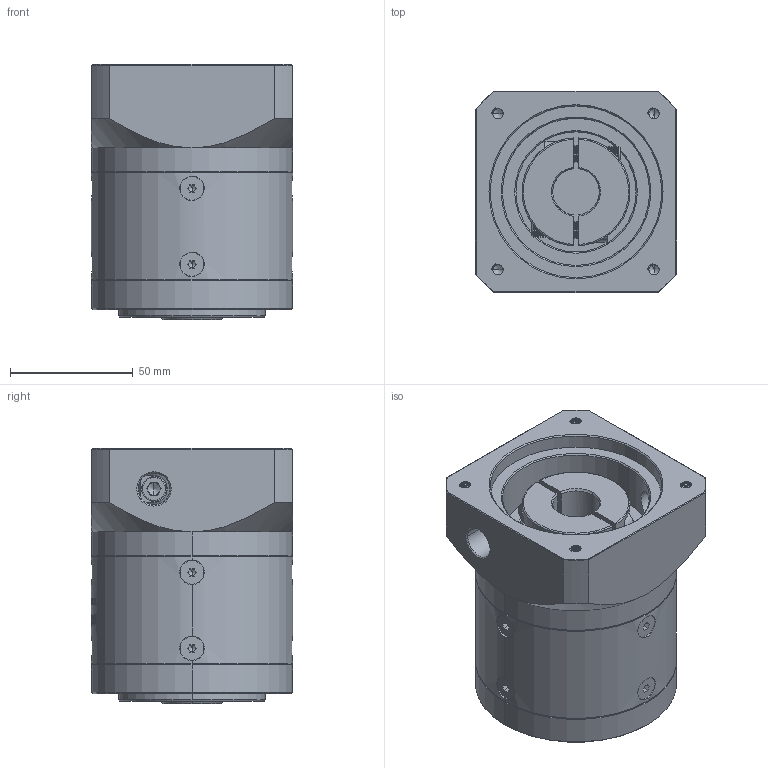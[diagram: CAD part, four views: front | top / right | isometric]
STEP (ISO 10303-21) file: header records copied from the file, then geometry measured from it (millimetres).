
FILE_DESCRIPTION (( 'STEP AP214' ), '1' );
FILE_NAME ('ZE80-K15-L1-19-70-90-M5.step', '2022-05-08T05:56:51', ( '' ), ( 'Microsoft' ), 'SwSTEP 2.0', 'SolidWorks 2016', '' );
FILE_SCHEMA (( 'AUTOMOTIVE_DESIGN' ));
Length unit declared in the file: millimetre
Products named in the file (1): ZE80-K15-L1-19-70-90-M5
Bounding box: 82 x 82 x 104 mm (x, y, z)
Volume: 488973 mm3; surface area: 81020.8 mm2
Topology: 13 solids, 13 shells, 2016 faces, 5262 edges, 3333 vertices
Faces by surface type: plane 879, cylinder 473, cone 325, bspline 322, torus 17
Entity records: 112420 total; most frequent: CARTESIAN_POINT 44877, ORIENTED_EDGE 10452, DIRECTION 8075, EDGE_CURVE 5226, VERTEX_POINT 3333, VECTOR 2815, LINE 2815, AXIS2_PLACEMENT_3D 2630
